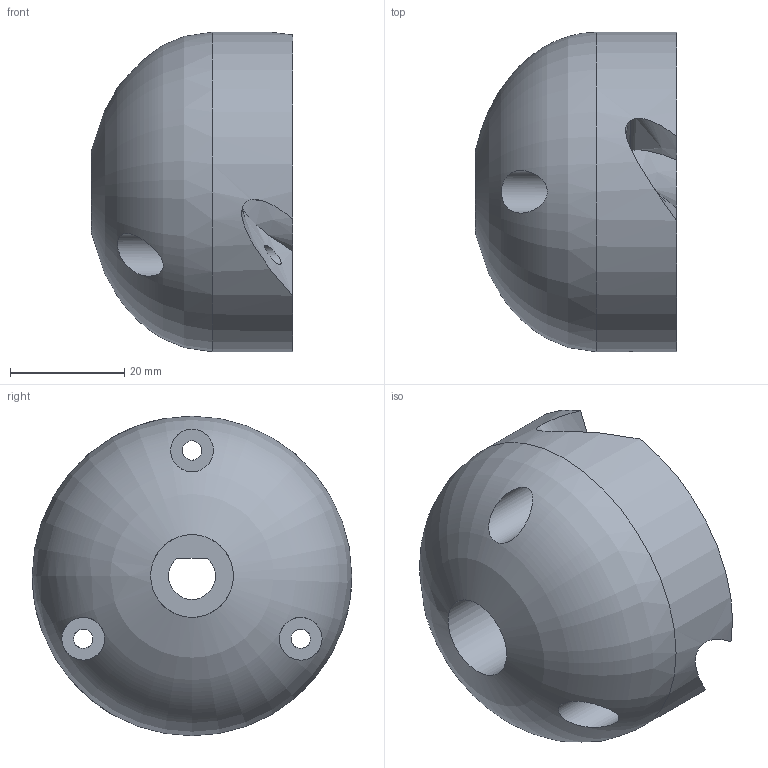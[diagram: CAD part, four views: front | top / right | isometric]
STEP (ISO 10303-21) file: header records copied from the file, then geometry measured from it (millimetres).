
FILE_DESCRIPTION(('Open CASCADE Model'),'2;1');
FILE_NAME('Open CASCADE Shape Model','2026-11-02T23:22:37',('Author'),( 'Open CASCADE'),'Open CASCADE STEP processor 7.9','Open CASCADE 7.9' ,'Unknown');
FILE_SCHEMA(('AUTOMOTIVE_DESIGN { 1 0 10303 214 1 1 1 1 }'));
Length unit declared in the file: millimetre
Products named in the file (1): Open CASCADE STEP translator 7.9 2
Bounding box: 35.25 x 56 x 56 mm (x, y, z)
Volume: 62006.6 mm3; surface area: 11794.4 mm2
Topology: 1 solids, 1 shells, 25 faces, 58 edges, 38 vertices
Faces by surface type: cylinder 9, bspline 9, plane 6, revolution 1
Full cylindrical faces by diameter (mm): 3.4 x3, 7.5 x3, 14.5 x1, 56 x1
Entity records: 15372 total; most frequent: CARTESIAN_POINT 14359, DIRECTION 118, ORIENTED_EDGE 116, PCURVE 116, DEFINITIONAL_REPRESENTATION 116, B_SPLINE_CURVE_WITH_KNOTS 98, EDGE_CURVE 58, LINE 50
